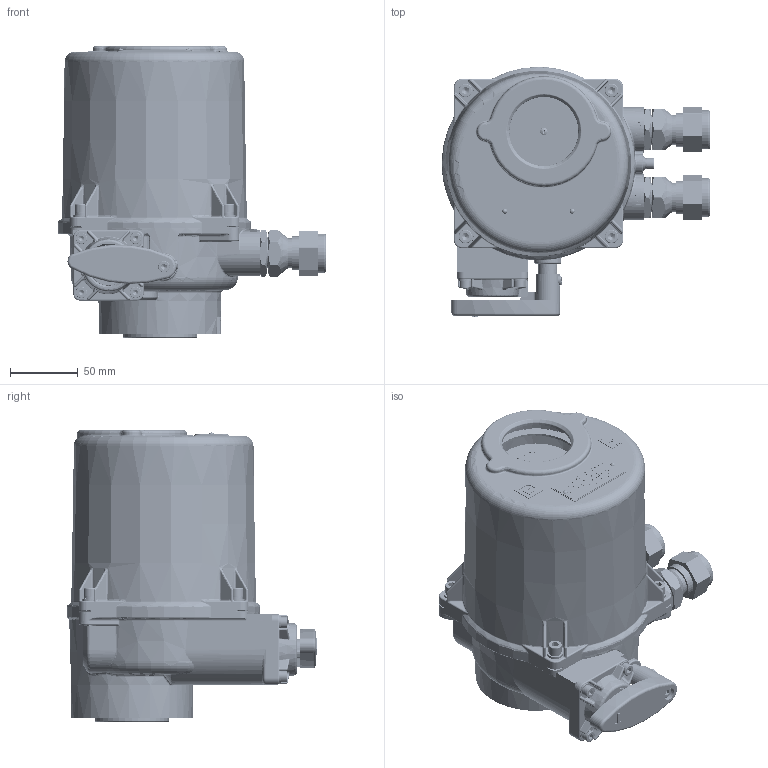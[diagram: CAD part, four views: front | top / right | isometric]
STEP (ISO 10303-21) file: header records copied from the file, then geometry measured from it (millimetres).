
FILE_DESCRIPTION(('STEP AP242'), '1');
FILE_NAME('8100B', '', ('UNSPECIFIED'), ('UNSPECIFIED'), 'C3D Converter', 'C3D Toolkit', '');
FILE_SCHEMA(('AP242_MANAGED_MODEL_BASED_3D_ENGINEERING_MIM_LF { 1 0 10303 442 1 1 4 }'));
Length unit declared in the file: millimetre
Products named in the file (1): ГЗ-ОФВ (К)
Bounding box: 198.5 x 185 x 215.5 mm (x, y, z)
Volume: 5220.7 mm3; surface area: 373371 mm2
Topology: 4 solids, 64 shells, 4977 faces, 13593 edges, 8728 vertices
Faces by surface type: plane 1849, cylinder 1215, bspline 937, cone 500, torus 402, sphere 74
Full cylindrical faces by diameter (mm): 2 x2, 2.2 x2, 2.459 x1, 2.675 x1, 3 x1, 3.2 x1, 3.242 x4, 3.545 x4, 4 x11, 4.134 x10, 4.2 x4, 4.3 x5, 4.5 x1, 4.917 x9, 5 x11, 5.3 x5, 5.5 x6, 6 x9, 6.2 x1, 6.4 x4, 6.5 x4, 6.647 x8, 6.8 x2, 7 x4, 8 x1, 8.5 x8, 9 x6, 9.6 x1, 10 x17, 12 x11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
Entity records: 294144 total; most frequent: CARTESIAN_POINT 139386, ORIENTED_EDGE 25803, DIRECTION 20640, EDGE_CURVE 12982, VERTEX_POINT 8651, AXIS2_PLACEMENT_3D 8175, EDGE_LOOP 5779, FACE_BOUND 5532
